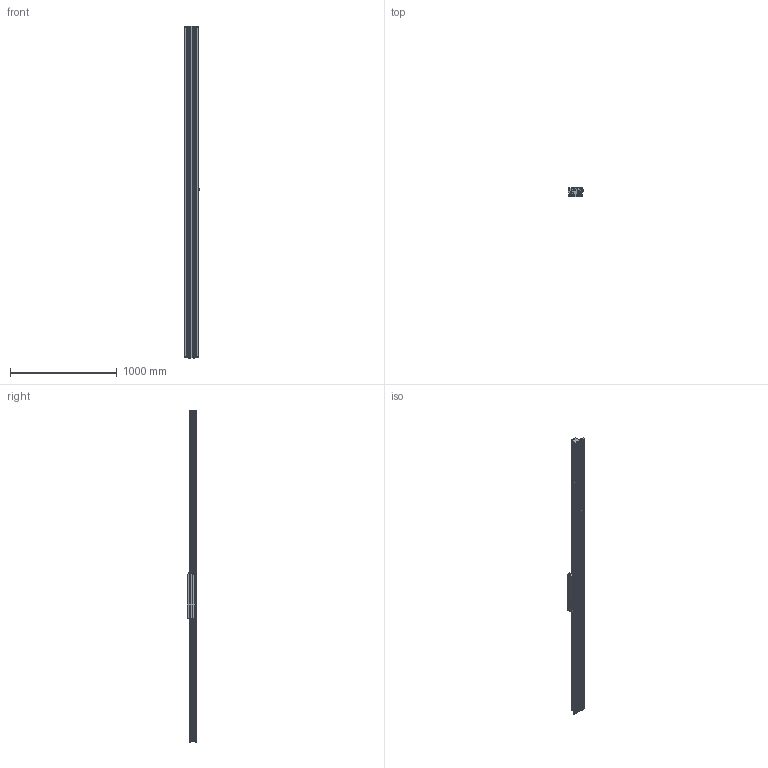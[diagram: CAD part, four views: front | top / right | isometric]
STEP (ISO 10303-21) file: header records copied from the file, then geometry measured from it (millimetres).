
FILE_DESCRIPTION (( 'STEP AP214' ), '1' );
FILE_NAME ('SINADRIVES Linear Motor Stage MLL20630XS-XX-1-0-ST-00-03108.STEP', '2015-07-07T08:10:42', ( 'Tecnico' ), ( '' ), 'SwSTEP 2.0', 'SolidWorks 2009', '' );
FILE_SCHEMA (( 'AUTOMOTIVE_DESIGN' ));
Length unit declared in the file: millimetre
Products named in the file (7): SINADRIVES CARRIAGE MLL20630XS-1; CARRIAGE MLL20630; Connector power+signal Y-tec 45; SINADRIVES PROFILE MLL2XXXX-3092; SINADRIVES ENDBLOCK MLL2; SINADRIVES ENDBLOCK MLL2-2; SINADRIVES Linear Motor Stage MLL20630XS-XX-1-0-ST-00-03108
Assembly tree (6 placements, depth 3):
  SINADRIVES Linear Motor Stage MLL20630XS-XX-1-0-ST-00-03108
    SINADRIVES PROFILE MLL2XXXX-3092
    SINADRIVES ENDBLOCK MLL2-2
    SINADRIVES CARRIAGE MLL20630XS-1
      CARRIAGE MLL20630
      Connector power+signal Y-tec 45
    SINADRIVES ENDBLOCK MLL2
Bounding box: 144.43 x 91 x 3116.8 mm (x, y, z)
Volume: 14712673.2 mm3; surface area: 2507805.2 mm2
Topology: 2 solids, 42 shells, 950 faces, 2640 edges, 1730 vertices
Faces by surface type: plane 445, cylinder 302, bspline 79, cone 70, torus 42, sphere 12
Entity records: 40587 total; most frequent: CARTESIAN_POINT 8656, ORIENTED_EDGE 5024, DIRECTION 4947, EDGE_CURVE 2622, AXIS2_PLACEMENT_3D 1781, VERTEX_POINT 1730, LINE 1385, VECTOR 1385
